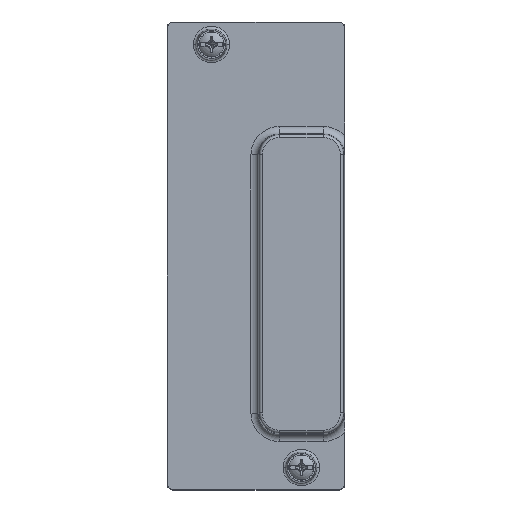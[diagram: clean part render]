
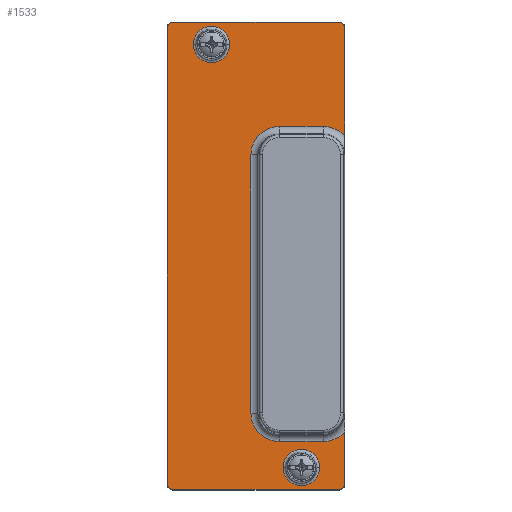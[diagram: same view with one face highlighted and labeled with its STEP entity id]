
A CAD part, top view. The second image highlights one B-rep face of the part: STEP entity #1533.
In plain terms, the highlighted planar face has unit normal (0, 0, 1).
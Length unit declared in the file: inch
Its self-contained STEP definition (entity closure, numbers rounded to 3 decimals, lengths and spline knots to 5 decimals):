
#70=CARTESIAN_POINT('',(0.,2.26,0.08));
#71=DIRECTION('',(0.,0.,1.));
#72=DIRECTION('',(1.,0.,0.));
#73=AXIS2_PLACEMENT_3D('',#70,#71,#72);
#85=DIRECTION('',(0.,-1.,0.));
#86=VECTOR('',#85,0.55684);
#87=CARTESIAN_POINT('',(1.42221,-1.88066,0.08));
#88=LINE('',#87,#86);
#89=DIRECTION('',(1.,0.,0.));
#90=VECTOR('',#89,1.775);
#91=CARTESIAN_POINT('',(-0.4125,-2.49721,0.08));
#92=LINE('',#91,#90);
#93=DIRECTION('',(0.,-1.,0.));
#94=VECTOR('',#93,4.875);
#95=CARTESIAN_POINT('',(-0.47221,2.4375,0.08));
#96=LINE('',#95,#94);
#97=DIRECTION('',(-1.,0.,0.));
#98=VECTOR('',#97,1.775);
#99=CARTESIAN_POINT('',(1.3625,2.49721,0.08));
#100=LINE('',#99,#98);
#101=DIRECTION('',(0.,-1.,0.));
#102=VECTOR('',#101,1.15584);
#103=CARTESIAN_POINT('',(1.42221,2.4375,0.08));
#104=LINE('',#103,#102);
#115=CARTESIAN_POINT('',(1.195,1.079,0.08));
#116=DIRECTION('',(0.,0.,-1.));
#117=DIRECTION('',(0.,1.,0.));
#118=AXIS2_PLACEMENT_3D('',#115,#116,#117);
#247=CARTESIAN_POINT('',(1.3625,2.4375,0.08));
#248=DIRECTION('',(0.,0.,1.));
#249=DIRECTION('',(1.,0.,0.));
#250=AXIS2_PLACEMENT_3D('',#247,#248,#249);
#265=CARTESIAN_POINT('',(-0.4125,2.4375,0.08));
#266=DIRECTION('',(0.,0.,1.));
#267=DIRECTION('',(0.,1.,0.));
#268=AXIS2_PLACEMENT_3D('',#265,#266,#267);
#283=CARTESIAN_POINT('',(-0.4125,-2.4375,0.08));
#284=DIRECTION('',(0.,0.,1.));
#285=DIRECTION('',(-1.,0.,0.));
#286=AXIS2_PLACEMENT_3D('',#283,#284,#285);
#301=CARTESIAN_POINT('',(1.3625,-2.4375,0.08));
#302=DIRECTION('',(0.,0.,1.));
#303=DIRECTION('',(0.,-1.,0.));
#304=AXIS2_PLACEMENT_3D('',#301,#302,#303);
#511=CARTESIAN_POINT('',(0.96,-2.26,0.08));
#512=DIRECTION('',(0.,0.,1.));
#513=DIRECTION('',(1.,0.,0.));
#514=AXIS2_PLACEMENT_3D('',#511,#512,#513);
#526=CARTESIAN_POINT('',(0.96,-2.26,0.08));
#527=DIRECTION('',(0.,0.,1.));
#528=DIRECTION('',(-1.,0.,0.));
#529=AXIS2_PLACEMENT_3D('',#526,#527,#528);
#973=CARTESIAN_POINT('',(1.195,-1.678,0.08));
#974=DIRECTION('',(0.,0.,-1.));
#975=DIRECTION('',(0.746,-0.666,0.));
#976=AXIS2_PLACEMENT_3D('',#973,#974,#975);
#1008=DIRECTION('',(-1.,0.,0.));
#1009=VECTOR('',#1008,0.47);
#1010=CARTESIAN_POINT('',(1.195,-1.98246,0.08));
#1011=LINE('',#1010,#1009);
#1038=CARTESIAN_POINT('',(0.725,-1.678,0.08));
#1039=DIRECTION('',(0.,0.,-1.));
#1040=DIRECTION('',(0.,-1.,0.));
#1041=AXIS2_PLACEMENT_3D('',#1038,#1039,#1040);
#1052=DIRECTION('',(0.,1.,0.));
#1053=VECTOR('',#1052,2.757);
#1054=CARTESIAN_POINT('',(0.42054,-1.678,0.08));
#1055=LINE('',#1054,#1053);
#1074=CARTESIAN_POINT('',(0.725,1.079,0.08));
#1075=DIRECTION('',(0.,0.,-1.));
#1076=DIRECTION('',(-1.,0.,0.));
#1077=AXIS2_PLACEMENT_3D('',#1074,#1075,#1076);
#1088=DIRECTION('',(1.,0.,0.));
#1089=VECTOR('',#1088,0.47);
#1090=CARTESIAN_POINT('',(0.725,1.38346,0.08));
#1091=LINE('',#1090,#1089);
#1105=CARTESIAN_POINT('',(0.,2.26,0.08));
#1106=DIRECTION('',(0.,0.,1.));
#1107=DIRECTION('',(-1.,0.,0.));
#1108=AXIS2_PLACEMENT_3D('',#1105,#1106,#1107);
#1128=CARTESIAN_POINT('',(1.195,1.38346,0.08));
#1129=CARTESIAN_POINT('',(1.42221,1.28166,0.08));
#1130=VERTEX_POINT('',#1128);
#1131=VERTEX_POINT('',#1129);
#1134=CARTESIAN_POINT('',(0.725,1.38346,0.08));
#1135=VERTEX_POINT('',#1134);
#1138=CARTESIAN_POINT('',(0.42054,1.079,0.08));
#1139=VERTEX_POINT('',#1138);
#1142=CARTESIAN_POINT('',(0.42054,-1.678,0.08));
#1143=VERTEX_POINT('',#1142);
#1146=CARTESIAN_POINT('',(0.725,-1.98246,0.08));
#1147=VERTEX_POINT('',#1146);
#1150=CARTESIAN_POINT('',(1.195,-1.98246,0.08));
#1151=VERTEX_POINT('',#1150);
#1152=CARTESIAN_POINT('',(1.42221,-1.88066,0.08));
#1153=VERTEX_POINT('',#1152);
#1316=CARTESIAN_POINT('',(0.19476,2.26,0.08));
#1317=CARTESIAN_POINT('',(-0.19476,2.26,0.08));
#1318=VERTEX_POINT('',#1316);
#1319=VERTEX_POINT('',#1317);
#1324=CARTESIAN_POINT('',(1.15476,-2.26,0.08));
#1325=CARTESIAN_POINT('',(0.76524,-2.26,0.08));
#1326=VERTEX_POINT('',#1324);
#1327=VERTEX_POINT('',#1325);
#1388=CARTESIAN_POINT('',(1.42221,2.4375,0.08));
#1390=VERTEX_POINT('',#1388);
#1392=CARTESIAN_POINT('',(1.3625,2.49721,0.08));
#1393=VERTEX_POINT('',#1392);
#1396=CARTESIAN_POINT('',(-0.4125,2.49721,0.08));
#1398=VERTEX_POINT('',#1396);
#1400=CARTESIAN_POINT('',(-0.47221,2.4375,0.08));
#1401=VERTEX_POINT('',#1400);
#1404=CARTESIAN_POINT('',(1.3625,-2.49721,0.08));
#1406=VERTEX_POINT('',#1404);
#1408=CARTESIAN_POINT('',(1.42221,-2.4375,0.08));
#1409=VERTEX_POINT('',#1408);
#1412=CARTESIAN_POINT('',(-0.47221,-2.4375,0.08));
#1414=VERTEX_POINT('',#1412);
#1416=CARTESIAN_POINT('',(-0.4125,-2.49721,0.08));
#1417=VERTEX_POINT('',#1416);
#1483=CARTESIAN_POINT('',(0.,0.,0.08));
#1484=DIRECTION('',(0.,0.,1.));
#1485=DIRECTION('',(1.,0.,0.));
#1486=AXIS2_PLACEMENT_3D('',#1483,#1484,#1485);
#1487=PLANE('',#1486);
#1489=ORIENTED_EDGE('',*,*,#1488,.F.);
#1491=ORIENTED_EDGE('',*,*,#1490,.F.);
#1493=ORIENTED_EDGE('',*,*,#1492,.F.);
#1495=ORIENTED_EDGE('',*,*,#1494,.F.);
#1497=ORIENTED_EDGE('',*,*,#1496,.F.);
#1499=ORIENTED_EDGE('',*,*,#1498,.F.);
#1501=ORIENTED_EDGE('',*,*,#1500,.F.);
#1503=ORIENTED_EDGE('',*,*,#1502,.T.);
#1505=ORIENTED_EDGE('',*,*,#1504,.F.);
#1507=ORIENTED_EDGE('',*,*,#1506,.F.);
#1509=ORIENTED_EDGE('',*,*,#1508,.F.);
#1511=ORIENTED_EDGE('',*,*,#1510,.F.);
#1513=ORIENTED_EDGE('',*,*,#1512,.F.);
#1515=ORIENTED_EDGE('',*,*,#1514,.F.);
#1517=ORIENTED_EDGE('',*,*,#1516,.F.);
#1519=ORIENTED_EDGE('',*,*,#1518,.T.);
#1520=EDGE_LOOP('',(#1489,#1491,#1493,#1495,#1497,#1499,#1501,#1503,#1505,#1507,
#1509,#1511,#1513,#1515,#1517,#1519));
#1521=FACE_OUTER_BOUND('',#1520,.F.);
#1522=ORIENTED_EDGE('',*,*,#1473,.T.);
#1524=ORIENTED_EDGE('',*,*,#1523,.T.);
#1525=EDGE_LOOP('',(#1522,#1524));
#1526=FACE_BOUND('',#1525,.F.);
#1528=ORIENTED_EDGE('',*,*,#1527,.T.);
#1530=ORIENTED_EDGE('',*,*,#1529,.T.);
#1531=EDGE_LOOP('',(#1528,#1530));
#1532=FACE_BOUND('',#1531,.F.);
#1533=ADVANCED_FACE('',(#1521,#1526,#1532),#1487,.T.);
#74=CIRCLE('',#73,0.19476);
#119=CIRCLE('',#118,0.30446);
#251=CIRCLE('',#250,0.05971);
#269=CIRCLE('',#268,0.05971);
#287=CIRCLE('',#286,0.05971);
#305=CIRCLE('',#304,0.05971);
#515=CIRCLE('',#514,0.19476);
#530=CIRCLE('',#529,0.19476);
#977=CIRCLE('',#976,0.30446);
#1042=CIRCLE('',#1041,0.30446);
#1078=CIRCLE('',#1077,0.30446);
#1109=CIRCLE('',#1108,0.19476);
#1473=EDGE_CURVE('',#1318,#1319,#74,.T.);
#1488=EDGE_CURVE('',#1130,#1131,#119,.T.);
#1490=EDGE_CURVE('',#1135,#1130,#1091,.T.);
#1492=EDGE_CURVE('',#1139,#1135,#1078,.T.);
#1494=EDGE_CURVE('',#1143,#1139,#1055,.T.);
#1496=EDGE_CURVE('',#1147,#1143,#1042,.T.);
#1498=EDGE_CURVE('',#1151,#1147,#1011,.T.);
#1500=EDGE_CURVE('',#1153,#1151,#977,.T.);
#1502=EDGE_CURVE('',#1153,#1409,#88,.T.);
#1504=EDGE_CURVE('',#1406,#1409,#305,.T.);
#1506=EDGE_CURVE('',#1417,#1406,#92,.T.);
#1508=EDGE_CURVE('',#1414,#1417,#287,.T.);
#1510=EDGE_CURVE('',#1401,#1414,#96,.T.);
#1512=EDGE_CURVE('',#1398,#1401,#269,.T.);
#1514=EDGE_CURVE('',#1393,#1398,#100,.T.);
#1516=EDGE_CURVE('',#1390,#1393,#251,.T.);
#1518=EDGE_CURVE('',#1390,#1131,#104,.T.);
#1523=EDGE_CURVE('',#1319,#1318,#1109,.T.);
#1527=EDGE_CURVE('',#1326,#1327,#515,.T.);
#1529=EDGE_CURVE('',#1327,#1326,#530,.T.);
